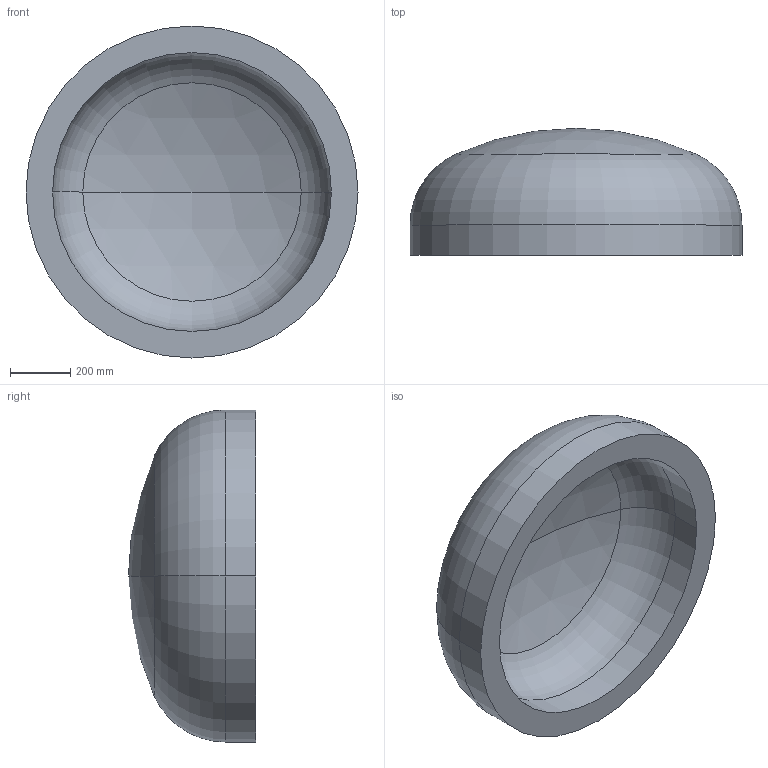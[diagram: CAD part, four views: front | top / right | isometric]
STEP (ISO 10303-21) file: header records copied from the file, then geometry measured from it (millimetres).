
FILE_DESCRIPTION (( 'STEP AP203' ), '1' );
FILE_NAME ('DIN 28013 Korbbogenform_-_Boden DIN 28013 - 1100 x 100 - I - s=88.step', '2016-07-01T09:14:29', ( '' ), ( '' ), 'SwSTEP 2.0', 'SolidWorks 2013', '' );
FILE_SCHEMA (( 'CONFIG_CONTROL_DESIGN' ));
Length unit declared in the file: millimetre
Products named in the file (1): DIN 28013 Korbbogenform_-_Boden DIN 28013 - 1100 x 100 - I - s=88
Bounding box: 1100 x 420.82 x 1100 mm (x, y, z)
Volume: 132815005.2 mm3; surface area: 3314519 mm2
Topology: 1 solids, 1 shells, 13 faces, 24 edges, 14 vertices
Faces by surface type: torus 4, cylinder 4, sphere 4, plane 1
Entity records: 407 total; most frequent: DIRECTION 72, CARTESIAN_POINT 52, ORIENTED_EDGE 48, AXIS2_PLACEMENT_3D 34, EDGE_CURVE 24, CIRCLE 20, EDGE_LOOP 14, VERTEX_POINT 14
